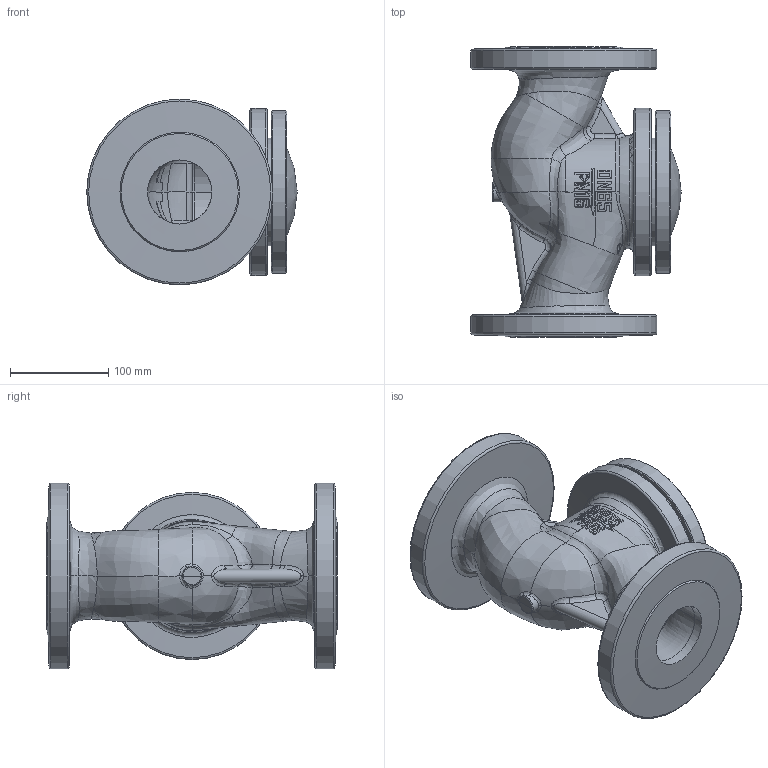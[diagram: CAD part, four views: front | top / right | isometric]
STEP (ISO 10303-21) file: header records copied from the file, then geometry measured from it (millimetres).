
FILE_DESCRIPTION(/* description */ ('STEP AP203'),/* implementation_level */ '2;1');
FILE_NAME(/* name */ '',/* time_stamp */ '2025-02-21T12:12:58+07:00',/* author */ ('Eva'),/* organization */ (''),/* preprocessor_version */ 'ST-DEVELOPER v20',/* originating_system */ 'Autodesk Inventor 2025',/* authorisation */ '');
FILE_SCHEMA (('AUTOMOTIVE_DESIGN { 1 0 10303 214 3 1 1 }'));
Length unit declared in the file: metre
Products named in the file (3): 止回阀65; 止回阀65阀盖; 65
Assembly tree (2 placements, depth 2):
  止回阀65
    止回阀65阀盖
    65
Bounding box: 214.29 x 296.23 x 189.3 mm (x, y, z)
Volume: 2636362.7 mm3; surface area: 400927 mm2
Topology: 2 solids, 2 shells, 632 faces, 1763 edges, 1159 vertices
Faces by surface type: bspline 429, plane 80, cylinder 47, torus 41, cone 33, sphere 2
Full cylindrical faces by diameter (mm): 14 x6, 30 x1, 46 x1, 54 x1, 88 x1, 110 x1, 166 x1, 170.2 x1, 189.3 x2
Entity records: 137538 total; most frequent: CARTESIAN_POINT 124056, ORIENTED_EDGE 3520, EDGE_CURVE 1760, DIRECTION 1613, VERTEX_POINT 1159, B_SPLINE_CURVE_WITH_KNOTS 933, EDGE_LOOP 675, FACE_OUTER_BOUND 632
